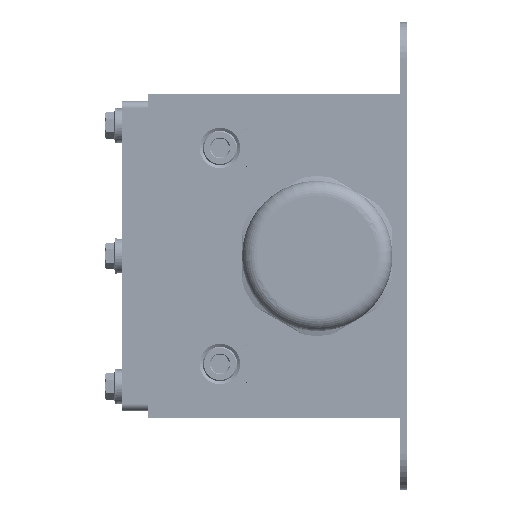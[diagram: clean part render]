
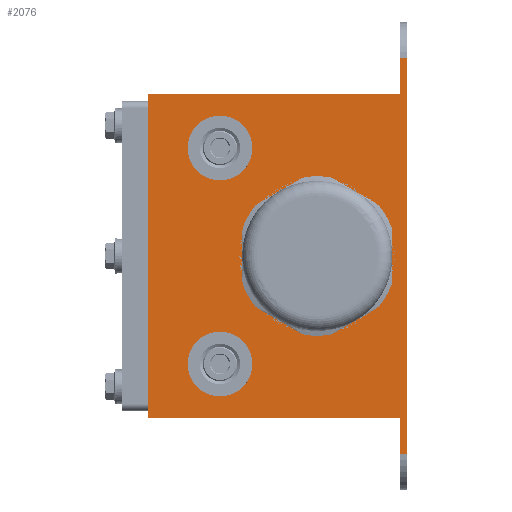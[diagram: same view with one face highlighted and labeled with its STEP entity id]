
A CAD part, left-side view. The second image highlights one B-rep face of the part: STEP entity #2076.
In plain terms, the highlighted planar face has unit normal (-1, 0, 0).
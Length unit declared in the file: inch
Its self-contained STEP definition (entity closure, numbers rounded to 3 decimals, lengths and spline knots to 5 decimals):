
#800 = ORIENTED_EDGE ( 'NONE', *, *, #27133, .F. ) ;
#1058 = CARTESIAN_POINT ( 'NONE',  ( -8.5, 3.6, 2.25 ) ) ;
#2076 = ADVANCED_FACE ( 'NONE', ( #40647, #68481, #79239, #28669 ), #58994, .F. ) ;
#3813 = ORIENTED_EDGE ( 'NONE', *, *, #57062, .F. ) ;
#4098 = DIRECTION ( 'NONE',  ( -1., 0., 0. ) ) ;
#4640 = CARTESIAN_POINT ( 'NONE',  ( -8.5, 2.6, 1.5 ) ) ;
#4969 = VECTOR ( 'NONE', #121797, 39.37008 ) ;
#5981 = LINE ( 'NONE', #44583, #4969 ) ;
#6606 = VECTOR ( 'NONE', #16477, 39.37008 ) ;
#7120 = EDGE_CURVE ( 'NONE', #79424, #8088, #42639, .T. ) ;
#7450 = VERTEX_POINT ( 'NONE', #24353 ) ;
#7831 = CARTESIAN_POINT ( 'NONE',  ( -8.5, 1.25, 0. ) ) ;
#8088 = VERTEX_POINT ( 'NONE', #17384 ) ;
#8121 = CARTESIAN_POINT ( 'NONE',  ( -8.5, 1.25, 0. ) ) ;
#9556 = EDGE_CURVE ( 'NONE', #22406, #66940, #15226, .T. ) ;
#11768 = EDGE_CURVE ( 'NONE', #49389, #82769, #27322, .T. ) ;
#13078 = CARTESIAN_POINT ( 'NONE',  ( -8.5, 1.25, 0.94488 ) ) ;
#13105 = EDGE_CURVE ( 'NONE', #32312, #45746, #23642, .T. ) ;
#13179 = CARTESIAN_POINT ( 'NONE',  ( -8.5, 0., 2.25 ) ) ;
#13616 = DIRECTION ( 'NONE',  ( 0., 0., 1. ) ) ;
#15145 = AXIS2_PLACEMENT_3D ( 'NONE', #8121, #114411, #45458 ) ;
#15226 = LINE ( 'NONE', #103149, #6606 ) ;
#16257 = LINE ( 'NONE', #104809, #111234 ) ;
#16477 = DIRECTION ( 'NONE',  ( 0., -1., 0. ) ) ;
#17384 = CARTESIAN_POINT ( 'NONE',  ( -8.5, 2.6, 1.125 ) ) ;
#22253 = CARTESIAN_POINT ( 'NONE',  ( -8.5, 0.105, 2.25 ) ) ;
#22406 = VERTEX_POINT ( 'NONE', #83634 ) ;
#23642 = LINE ( 'NONE', #98976, #123423 ) ;
#23765 = EDGE_CURVE ( 'NONE', #45950, #103112, #34031, .T. ) ;
#24353 = CARTESIAN_POINT ( 'NONE',  ( -8.5, 3.6, 2.25 ) ) ;
#24763 = CARTESIAN_POINT ( 'NONE',  ( -8.5, 0., 2.75 ) ) ;
#27133 = EDGE_CURVE ( 'NONE', #82769, #49389, #92147, .T. ) ;
#27322 = CIRCLE ( 'NONE', #108172, 0.375 ) ;
#27801 = ORIENTED_EDGE ( 'NONE', *, *, #46716, .F. ) ;
#28235 = DIRECTION ( 'NONE',  ( -1., 0., 0. ) ) ;
#28669 = FACE_OUTER_BOUND ( 'NONE', #70908, .T. ) ;
#31103 = ORIENTED_EDGE ( 'NONE', *, *, #66073, .F. ) ;
#31162 = CARTESIAN_POINT ( 'NONE',  ( -8.5, 3.6, 2.25 ) ) ;
#31304 = EDGE_CURVE ( 'NONE', #22406, #7450, #37785, .T. ) ;
#32024 = CIRCLE ( 'NONE', #94717, 0.94488 ) ;
#32164 = DIRECTION ( 'NONE',  ( 0., 0., 1. ) ) ;
#32214 = CARTESIAN_POINT ( 'NONE',  ( -8.5, 2.6, -1.875 ) ) ;
#32312 = VERTEX_POINT ( 'NONE', #22253 ) ;
#33237 = ORIENTED_EDGE ( 'NONE', *, *, #95323, .T. ) ;
#34031 = LINE ( 'NONE', #13179, #57600 ) ;
#34859 = VECTOR ( 'NONE', #42390, 39.37008 ) ;
#37785 = LINE ( 'NONE', #1058, #111112 ) ;
#38361 = EDGE_CURVE ( 'NONE', #45746, #103112, #16257, .T. ) ;
#38646 = LINE ( 'NONE', #98150, #76123 ) ;
#39552 = AXIS2_PLACEMENT_3D ( 'NONE', #97360, #4098, #13616 ) ;
#40647 = FACE_BOUND ( 'NONE', #106851, .T. ) ;
#41240 = CARTESIAN_POINT ( 'NONE',  ( -8.5, 2.6, -1.5 ) ) ;
#42390 = DIRECTION ( 'NONE',  ( 0., -1., 0. ) ) ;
#42639 = CIRCLE ( 'NONE', #87173, 0.375 ) ;
#44583 = CARTESIAN_POINT ( 'NONE',  ( -8.5, 3.6, 2.25 ) ) ;
#45458 = DIRECTION ( 'NONE',  ( 0., 0., 1. ) ) ;
#45746 = VERTEX_POINT ( 'NONE', #58703 ) ;
#45950 = VERTEX_POINT ( 'NONE', #50449 ) ;
#46258 = CARTESIAN_POINT ( 'NONE',  ( -8.5, 2.6, 1.875 ) ) ;
#46409 = DIRECTION ( 'NONE',  ( 0., 0., 1. ) ) ;
#46716 = EDGE_CURVE ( 'NONE', #125128, #66940, #38646, .T. ) ;
#49049 = CARTESIAN_POINT ( 'NONE',  ( -8.5, 0.105, -2.25 ) ) ;
#49389 = VERTEX_POINT ( 'NONE', #32214 ) ;
#49614 = VERTEX_POINT ( 'NONE', #13078 ) ;
#50449 = CARTESIAN_POINT ( 'NONE',  ( -8.5, 0., -2.75 ) ) ;
#50906 = VERTEX_POINT ( 'NONE', #118345 ) ;
#51330 = DIRECTION ( 'NONE',  ( -1., 0., 0. ) ) ;
#52085 = DIRECTION ( 'NONE',  ( 0., 0., 1. ) ) ;
#53478 = CARTESIAN_POINT ( 'NONE',  ( -8.5, 0.105, -2.75 ) ) ;
#54373 = LINE ( 'NONE', #92389, #34859 ) ;
#56095 = ORIENTED_EDGE ( 'NONE', *, *, #94905, .F. ) ;
#57062 = EDGE_CURVE ( 'NONE', #49614, #50906, #120195, .T. ) ;
#57393 = DIRECTION ( 'NONE',  ( 0., 0., 1. ) ) ;
#57600 = VECTOR ( 'NONE', #32164, 39.37008 ) ;
#58703 = CARTESIAN_POINT ( 'NONE',  ( -8.5, 0.105, 2.75 ) ) ;
#58994 = PLANE ( 'NONE',  #76500 ) ;
#63621 = ORIENTED_EDGE ( 'NONE', *, *, #9556, .T. ) ;
#66073 = EDGE_CURVE ( 'NONE', #50906, #49614, #32024, .T. ) ;
#66940 = VERTEX_POINT ( 'NONE', #49049 ) ;
#67736 = DIRECTION ( 'NONE',  ( 0., 0., 1. ) ) ;
#68481 = FACE_BOUND ( 'NONE', #122752, .T. ) ;
#70908 = EDGE_LOOP ( 'NONE', ( #88481, #109573, #89652, #98001, #74205, #63621, #27801, #33237 ) ) ;
#72349 = DIRECTION ( 'NONE',  ( 0., 0., 1. ) ) ;
#74205 = ORIENTED_EDGE ( 'NONE', *, *, #31304, .F. ) ;
#74273 = DIRECTION ( 'NONE',  ( -1., 0., 0. ) ) ;
#76123 = VECTOR ( 'NONE', #67736, 39.37008 ) ;
#76500 = AXIS2_PLACEMENT_3D ( 'NONE', #31162, #117836, #115326 ) ;
#77192 = CIRCLE ( 'NONE', #93414, 0.375 ) ;
#79239 = FACE_BOUND ( 'NONE', #96674, .T. ) ;
#79424 = VERTEX_POINT ( 'NONE', #46258 ) ;
#82769 = VERTEX_POINT ( 'NONE', #105302 ) ;
#83634 = CARTESIAN_POINT ( 'NONE',  ( -8.5, 3.6, -2.25 ) ) ;
#87173 = AXIS2_PLACEMENT_3D ( 'NONE', #4640, #109686, #72349 ) ;
#88481 = ORIENTED_EDGE ( 'NONE', *, *, #23765, .T. ) ;
#89652 = ORIENTED_EDGE ( 'NONE', *, *, #13105, .F. ) ;
#92147 = CIRCLE ( 'NONE', #39552, 0.375 ) ;
#92389 = CARTESIAN_POINT ( 'NONE',  ( -8.5, 1.51921, -2.75 ) ) ;
#93414 = AXIS2_PLACEMENT_3D ( 'NONE', #113033, #28235, #123799 ) ;
#94093 = DIRECTION ( 'NONE',  ( 0., -1., 0. ) ) ;
#94717 = AXIS2_PLACEMENT_3D ( 'NONE', #7831, #74273, #46409 ) ;
#94905 = EDGE_CURVE ( 'NONE', #8088, #79424, #77192, .T. ) ;
#95323 = EDGE_CURVE ( 'NONE', #125128, #45950, #54373, .T. ) ;
#96674 = EDGE_LOOP ( 'NONE', ( #3813, #31103 ) ) ;
#97360 = CARTESIAN_POINT ( 'NONE',  ( -8.5, 2.6, -1.5 ) ) ;
#98001 = ORIENTED_EDGE ( 'NONE', *, *, #123448, .F. ) ;
#98150 = CARTESIAN_POINT ( 'NONE',  ( -8.5, 0.105, -2.25 ) ) ;
#98976 = CARTESIAN_POINT ( 'NONE',  ( -8.5, 0.105, 2.25 ) ) ;
#103112 = VERTEX_POINT ( 'NONE', #24763 ) ;
#103149 = CARTESIAN_POINT ( 'NONE',  ( -8.5, 3.6, -2.25 ) ) ;
#103857 = ORIENTED_EDGE ( 'NONE', *, *, #7120, .F. ) ;
#104809 = CARTESIAN_POINT ( 'NONE',  ( -8.5, 1.51921, 2.75 ) ) ;
#105302 = CARTESIAN_POINT ( 'NONE',  ( -8.5, 2.6, -1.125 ) ) ;
#106851 = EDGE_LOOP ( 'NONE', ( #103857, #56095 ) ) ;
#108172 = AXIS2_PLACEMENT_3D ( 'NONE', #41240, #51330, #117820 ) ;
#109573 = ORIENTED_EDGE ( 'NONE', *, *, #38361, .F. ) ;
#109686 = DIRECTION ( 'NONE',  ( -1., 0., 0. ) ) ;
#111112 = VECTOR ( 'NONE', #57393, 39.37008 ) ;
#111234 = VECTOR ( 'NONE', #94093, 39.37008 ) ;
#113033 = CARTESIAN_POINT ( 'NONE',  ( -8.5, 2.6, 1.5 ) ) ;
#113764 = ORIENTED_EDGE ( 'NONE', *, *, #11768, .F. ) ;
#114411 = DIRECTION ( 'NONE',  ( -1., 0., 0. ) ) ;
#115326 = DIRECTION ( 'NONE',  ( 0., 0., -1. ) ) ;
#117820 = DIRECTION ( 'NONE',  ( 0., 0., 1. ) ) ;
#117836 = DIRECTION ( 'NONE',  ( 1., 0., 0. ) ) ;
#118345 = CARTESIAN_POINT ( 'NONE',  ( -8.5, 1.25, -0.94488 ) ) ;
#120195 = CIRCLE ( 'NONE', #15145, 0.94488 ) ;
#121797 = DIRECTION ( 'NONE',  ( 0., -1., 0. ) ) ;
#122752 = EDGE_LOOP ( 'NONE', ( #800, #113764 ) ) ;
#123423 = VECTOR ( 'NONE', #52085, 39.37008 ) ;
#123448 = EDGE_CURVE ( 'NONE', #7450, #32312, #5981, .T. ) ;
#123799 = DIRECTION ( 'NONE',  ( 0., 0., 1. ) ) ;
#125128 = VERTEX_POINT ( 'NONE', #53478 ) ;
